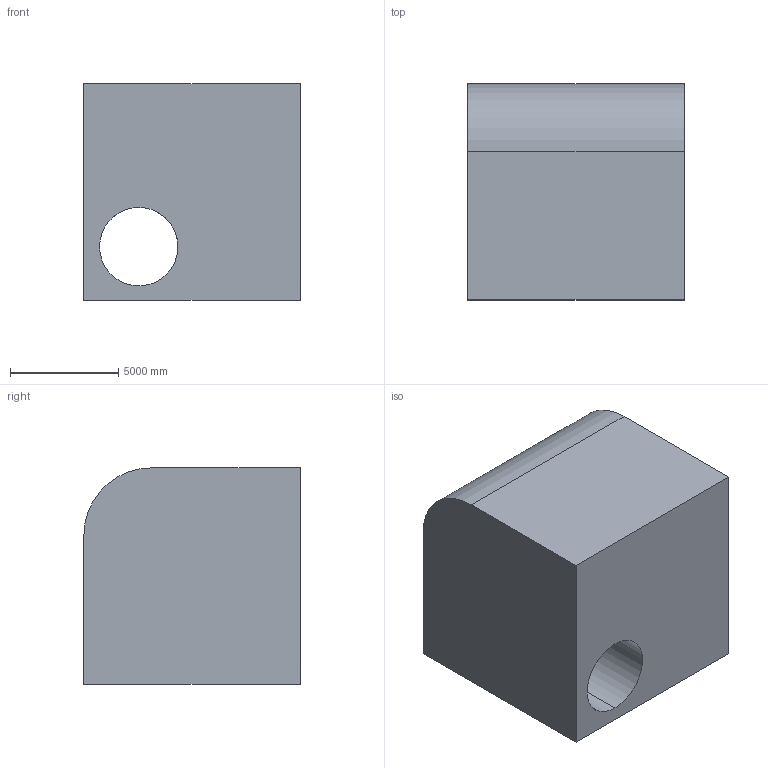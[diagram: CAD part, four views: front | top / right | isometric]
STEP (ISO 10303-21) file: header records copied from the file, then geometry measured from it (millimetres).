
FILE_DESCRIPTION (( 'STEP AP203' ), '1' );
FILE_NAME ('258.STEP', '2022-07-28T14:07:36', ( 'user' ), ( '' ), 'SwSTEP 2.0', 'SolidWorks 2021', '' );
FILE_SCHEMA (( 'CONFIG_CONTROL_DESIGN' ));
Length unit declared in the file: centimetre
Products named in the file (1): 258
Bounding box: 10000 x 10000 x 10000 mm (x, y, z)
Volume: 851653851926.8 mm3; surface area: 711875549.9 mm2
Topology: 1 solids, 1 shells, 19 faces, 48 edges, 32 vertices
Faces by surface type: plane 16, cylinder 3
Entity records: 653 total; most frequent: CARTESIAN_POINT 127, ORIENTED_EDGE 96, DIRECTION 85, EDGE_CURVE 48, LINE 33, VECTOR 33, VERTEX_POINT 32, AXIS2_PLACEMENT_3D 26
